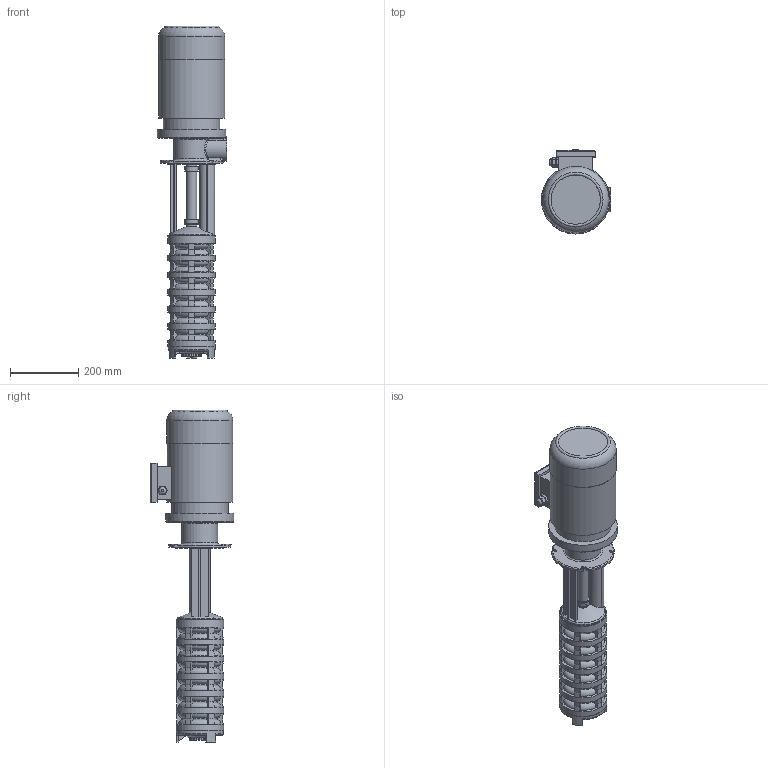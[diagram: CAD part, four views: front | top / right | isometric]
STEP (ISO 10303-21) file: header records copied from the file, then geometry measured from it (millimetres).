
FILE_DESCRIPTION(/* description */ ('Unknown'),/* implementation_level */ '2;1');
FILE_NAME(/* name */ 'gp7-570',/* time_stamp */ '2025-06-17T14:05:03+03:00',/* author */ ('Unknown'),/* organization */ ('Unknown'),/* preprocessor_version */ 'ST-DEVELOPER v16.7',/* originating_system */ 'DEX',/* authorisation */ $);
FILE_SCHEMA (('AUTOMOTIVE_DESIGN {1 0 10303 214 3 1 1}'));
Length unit declared in the file: millimetre
Products named in the file (1): gp7-570
Bounding box: 202 x 245.5 x 970.49 mm (x, y, z)
Volume: 16165660.7 mm3; surface area: 689496.9 mm2
Topology: 1 solids, 1 shells, 564 faces, 1528 edges, 997 vertices
Faces by surface type: plane 182, cylinder 108, cone 101, torus 89, bspline 84
Full cylindrical faces by diameter (mm): 17 x1, 21.5 x1, 29 x3, 33 x2, 35 x2, 39 x2, 40.5 x2, 45 x1, 47 x1, 60 x1, 137 x1, 139 x7, 140 x1, 165 x1, 192.353 x1, 194 x1, 200 x1
Entity records: 20327 total; most frequent: CARTESIAN_POINT 6610, ORIENTED_EDGE 2886, DIRECTION 2785, EDGE_CURVE 1443, AXIS2_PLACEMENT_3D 1068, VERTEX_POINT 975, EDGE_LOOP 662, FACE_BOUND 662
